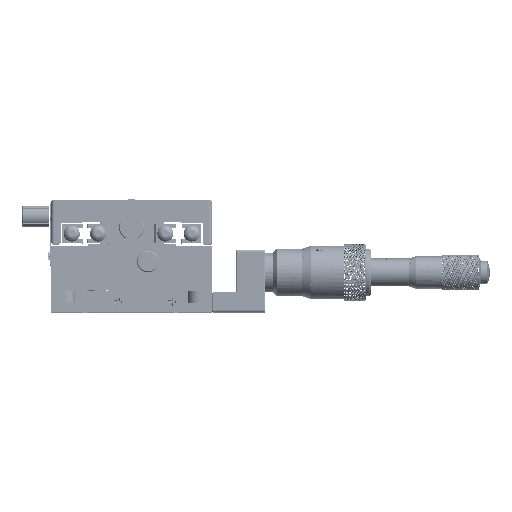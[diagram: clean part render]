
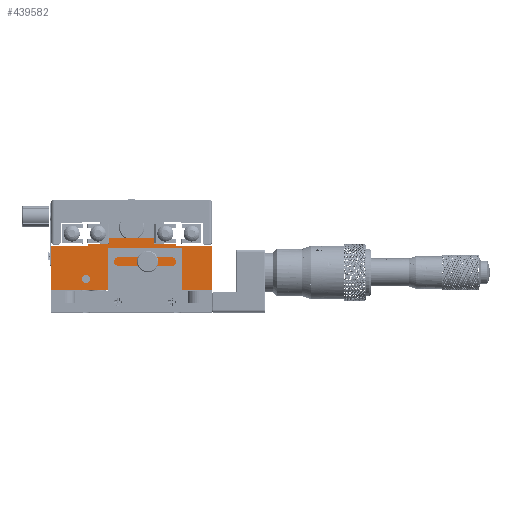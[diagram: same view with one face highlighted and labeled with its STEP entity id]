
A CAD part, top view. The second image highlights one B-rep face of the part: STEP entity #439582.
In plain terms, the highlighted planar face has unit normal (0, 0, 1).
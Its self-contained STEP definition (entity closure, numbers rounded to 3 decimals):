
#51398 = CARTESIAN_POINT ( 'NONE',  ( -20.985, -19.578, 18.46 ) ) ;
#51422 = CARTESIAN_POINT ( 'NONE',  ( -54.985, -19.578, 18.46 ) ) ;
#51429 = CARTESIAN_POINT ( 'NONE',  ( -37.985, -19.578, 18.46 ) ) ;
#51432 = CARTESIAN_POINT ( 'NONE',  ( -31.985, -13.078, 18.46 ) ) ;
#57407 = VERTEX_POINT ( 'NONE', #51398 ) ;
#57483 = VERTEX_POINT ( 'NONE', #51422 ) ;
#57502 = VERTEX_POINT ( 'NONE', #51429 ) ;
#57509 = VERTEX_POINT ( 'NONE', #51432 ) ;
#63073 = EDGE_LOOP ( 'NONE', ( #508020, #508026, #508035, #508042, #508051, #508059, #508067, #508075, #508083, #508092, #508098, #508106 ) ) ;
#63246 = EDGE_LOOP ( 'NONE', ( #508007 ) ) ;
#63271 = EDGE_LOOP ( 'NONE', ( #508012 ) ) ;
#63305 = EDGE_LOOP ( 'NONE', ( #508116 ) ) ;
#63375 = EDGE_LOOP ( 'NONE', ( #508001 ) ) ;
#91609 = FACE_BOUND ( 'NONE', #63375, .T. ) ;
#91616 = FACE_BOUND ( 'NONE', #63271, .T. ) ;
#91671 = FACE_BOUND ( 'NONE', #63305, .T. ) ;
#91683 = FACE_OUTER_BOUND ( 'NONE', #63073, .T. ) ;
#91687 = FACE_BOUND ( 'NONE', #63246, .T. ) ;
#119639 = VERTEX_POINT ( 'NONE', #369046 ) ;
#119666 = VERTEX_POINT ( 'NONE', #369079 ) ;
#119671 = VERTEX_POINT ( 'NONE', #369086 ) ;
#119676 = VERTEX_POINT ( 'NONE', #369093 ) ;
#119681 = VERTEX_POINT ( 'NONE', #369101 ) ;
#119708 = VERTEX_POINT ( 'NONE', #369137 ) ;
#119712 = VERTEX_POINT ( 'NONE', #369144 ) ;
#119739 = VERTEX_POINT ( 'NONE', #369180 ) ;
#119751 = VERTEX_POINT ( 'NONE', #369195 ) ;
#119766 = VERTEX_POINT ( 'NONE', #369213 ) ;
#119790 = VERTEX_POINT ( 'NONE', #369240 ) ;
#119811 = VERTEX_POINT ( 'NONE', #369266 ) ;
#129505 = AXIS2_PLACEMENT_3D ( 'NONE', #160585, #160582, #160609 ) ;
#160582 = DIRECTION ( 'NONE',  ( 0., 0., -1. ) ) ;
#160585 = CARTESIAN_POINT ( 'NONE',  ( -39.485, -13.828, 18.46 ) ) ;
#160596 = PLANE ( 'NONE',  #129505 ) ;
#160609 = DIRECTION ( 'NONE',  ( -1., 0., 0. ) ) ;
#299007 = EDGE_CURVE ( 'NONE', #119811, #119790, #543985, .T. ) ;
#300776 = EDGE_CURVE ( 'NONE', #57407, #57407, #545494, .T. ) ;
#300877 = EDGE_CURVE ( 'NONE', #57483, #57483, #545593, .T. ) ;
#300925 = EDGE_CURVE ( 'NONE', #119681, #119712, #545635, .T. ) ;
#300933 = EDGE_CURVE ( 'NONE', #57502, #57502, #545627, .T. ) ;
#300941 = EDGE_CURVE ( 'NONE', #57509, #57509, #545643, .T. ) ;
#300949 = EDGE_CURVE ( 'NONE', #119790, #119766, #545656, .T. ) ;
#300973 = EDGE_CURVE ( 'NONE', #119811, #119639, #545682, .T. ) ;
#301580 = EDGE_CURVE ( 'NONE', #119766, #119739, #546156, .T. ) ;
#301625 = EDGE_CURVE ( 'NONE', #119739, #119751, #546188, .T. ) ;
#301653 = EDGE_CURVE ( 'NONE', #119751, #119676, #546208, .T. ) ;
#301678 = EDGE_CURVE ( 'NONE', #119671, #119708, #546229, .T. ) ;
#301718 = EDGE_CURVE ( 'NONE', #119676, #119712, #546265, .T. ) ;
#301742 = EDGE_CURVE ( 'NONE', #119708, #119681, #546288, .T. ) ;
#301794 = EDGE_CURVE ( 'NONE', #119666, #119671, #546345, .T. ) ;
#301815 = EDGE_CURVE ( 'NONE', #119639, #119666, #546356, .T. ) ;
#359136 = AXIS2_PLACEMENT_3D ( 'NONE', #644682, #644686, #644690 ) ;
#359436 = AXIS2_PLACEMENT_3D ( 'NONE', #645072, #645074, #645076 ) ;
#359587 = AXIS2_PLACEMENT_3D ( 'NONE', #645193, #645195, #645198 ) ;
#359611 = AXIS2_PLACEMENT_3D ( 'NONE', #645222, #645225, #645227 ) ;
#369046 = CARTESIAN_POINT ( 'NONE',  ( -9.485, -7.078, 18.46 ) ) ;
#369079 = CARTESIAN_POINT ( 'NONE',  ( -22.985, -7.078, 18.46 ) ) ;
#369086 = CARTESIAN_POINT ( 'NONE',  ( -22.985, -6.578, 18.46 ) ) ;
#369093 = CARTESIAN_POINT ( 'NONE',  ( -47.985, -6.578, 18.46 ) ) ;
#369101 = CARTESIAN_POINT ( 'NONE',  ( -30.985, -4.078, 18.46 ) ) ;
#369137 = CARTESIAN_POINT ( 'NONE',  ( -30.985, -6.578, 18.46 ) ) ;
#369144 = CARTESIAN_POINT ( 'NONE',  ( -47.985, -4.078, 18.46 ) ) ;
#369180 = CARTESIAN_POINT ( 'NONE',  ( -55.985, -7.078, 18.46 ) ) ;
#369195 = CARTESIAN_POINT ( 'NONE',  ( -55.985, -6.578, 18.46 ) ) ;
#369213 = CARTESIAN_POINT ( 'NONE',  ( -69.485, -7.078, 18.46 ) ) ;
#369240 = CARTESIAN_POINT ( 'NONE',  ( -69.485, -23.578, 18.46 ) ) ;
#369266 = CARTESIAN_POINT ( 'NONE',  ( -9.485, -23.578, 18.46 ) ) ;
#439582 = ADVANCED_FACE ( 'NONE', ( #91609, #91687, #91616, #91683, #91671 ), #160596, .F. ) ;
#508001 = ORIENTED_EDGE ( 'NONE', *, *, #300941, .F. ) ;
#508007 = ORIENTED_EDGE ( 'NONE', *, *, #300933, .F. ) ;
#508012 = ORIENTED_EDGE ( 'NONE', *, *, #300877, .F. ) ;
#508020 = ORIENTED_EDGE ( 'NONE', *, *, #300949, .F. ) ;
#508026 = ORIENTED_EDGE ( 'NONE', *, *, #299007, .F. ) ;
#508035 = ORIENTED_EDGE ( 'NONE', *, *, #300973, .T. ) ;
#508042 = ORIENTED_EDGE ( 'NONE', *, *, #301815, .T. ) ;
#508051 = ORIENTED_EDGE ( 'NONE', *, *, #301794, .T. ) ;
#508059 = ORIENTED_EDGE ( 'NONE', *, *, #301678, .T. ) ;
#508067 = ORIENTED_EDGE ( 'NONE', *, *, #301742, .T. ) ;
#508075 = ORIENTED_EDGE ( 'NONE', *, *, #300925, .T. ) ;
#508083 = ORIENTED_EDGE ( 'NONE', *, *, #301718, .F. ) ;
#508092 = ORIENTED_EDGE ( 'NONE', *, *, #301653, .F. ) ;
#508098 = ORIENTED_EDGE ( 'NONE', *, *, #301625, .F. ) ;
#508106 = ORIENTED_EDGE ( 'NONE', *, *, #301580, .F. ) ;
#508116 = ORIENTED_EDGE ( 'NONE', *, *, #300776, .F. ) ;
#543985 = LINE ( 'NONE', #626460, #544016 ) ;
#544016 = VECTOR ( 'NONE', #626514, 1000. ) ;
#545494 = CIRCLE ( 'NONE', #359136, 1.5 ) ;
#545593 = CIRCLE ( 'NONE', #359436, 1.5 ) ;
#545627 = CIRCLE ( 'NONE', #359587, 1.5 ) ;
#545635 = LINE ( 'NONE', #645174, #545639 ) ;
#545639 = VECTOR ( 'NONE', #645178, 1000. ) ;
#545643 = CIRCLE ( 'NONE', #359611, 1.5 ) ;
#545656 = LINE ( 'NONE', #645245, #545660 ) ;
#545660 = VECTOR ( 'NONE', #645250, 1000. ) ;
#545682 = LINE ( 'NONE', #645310, #545689 ) ;
#545689 = VECTOR ( 'NONE', #645314, 1000. ) ;
#546156 = LINE ( 'NONE', #662411, #546159 ) ;
#546159 = VECTOR ( 'NONE', #662417, 1000. ) ;
#546188 = LINE ( 'NONE', #662587, #546193 ) ;
#546193 = VECTOR ( 'NONE', #662594, 1000. ) ;
#546208 = LINE ( 'NONE', #662691, #546214 ) ;
#546214 = VECTOR ( 'NONE', #662697, 1000. ) ;
#546229 = LINE ( 'NONE', #662799, #546232 ) ;
#546232 = VECTOR ( 'NONE', #662806, 1000. ) ;
#546265 = LINE ( 'NONE', #662987, #546268 ) ;
#546268 = VECTOR ( 'NONE', #662993, 1000. ) ;
#546288 = LINE ( 'NONE', #663108, #546293 ) ;
#546293 = VECTOR ( 'NONE', #663117, 1000. ) ;
#546345 = LINE ( 'NONE', #663475, #546350 ) ;
#546350 = VECTOR ( 'NONE', #663482, 1000. ) ;
#546356 = LINE ( 'NONE', #663567, #546374 ) ;
#546374 = VECTOR ( 'NONE', #663592, 1000. ) ;
#626460 = CARTESIAN_POINT ( 'NONE',  ( -39.485, -23.578, 18.46 ) ) ;
#626514 = DIRECTION ( 'NONE',  ( -1., 0., 0. ) ) ;
#644682 = CARTESIAN_POINT ( 'NONE',  ( -22.485, -19.578, 18.46 ) ) ;
#644686 = DIRECTION ( 'NONE',  ( 0., 0., 1. ) ) ;
#644690 = DIRECTION ( 'NONE',  ( 1., 0., 0. ) ) ;
#645072 = CARTESIAN_POINT ( 'NONE',  ( -56.485, -19.578, 18.46 ) ) ;
#645074 = DIRECTION ( 'NONE',  ( 0., 0., 1. ) ) ;
#645076 = DIRECTION ( 'NONE',  ( 1., 0., 0. ) ) ;
#645174 = CARTESIAN_POINT ( 'NONE',  ( -39.485, -4.078, 18.46 ) ) ;
#645178 = DIRECTION ( 'NONE',  ( -1., 0., 0. ) ) ;
#645193 = CARTESIAN_POINT ( 'NONE',  ( -39.485, -19.578, 18.46 ) ) ;
#645195 = DIRECTION ( 'NONE',  ( 0., 0., 1. ) ) ;
#645198 = DIRECTION ( 'NONE',  ( 1., 0., 0. ) ) ;
#645222 = CARTESIAN_POINT ( 'NONE',  ( -33.485, -13.078, 18.46 ) ) ;
#645225 = DIRECTION ( 'NONE',  ( 0., 0., 1. ) ) ;
#645227 = DIRECTION ( 'NONE',  ( 1., 0., 0. ) ) ;
#645245 = CARTESIAN_POINT ( 'NONE',  ( -69.485, -13.828, 18.46 ) ) ;
#645250 = DIRECTION ( 'NONE',  ( 0., 1., 0. ) ) ;
#645310 = CARTESIAN_POINT ( 'NONE',  ( -9.485, -13.828, 18.46 ) ) ;
#645314 = DIRECTION ( 'NONE',  ( 0., 1., 0. ) ) ;
#662411 = CARTESIAN_POINT ( 'NONE',  ( -39.485, -7.078, 18.46 ) ) ;
#662417 = DIRECTION ( 'NONE',  ( 1., 0., 0. ) ) ;
#662587 = CARTESIAN_POINT ( 'NONE',  ( -55.985, -13.828, 18.46 ) ) ;
#662594 = DIRECTION ( 'NONE',  ( 0., 1., 0. ) ) ;
#662691 = CARTESIAN_POINT ( 'NONE',  ( -39.485, -6.578, 18.46 ) ) ;
#662697 = DIRECTION ( 'NONE',  ( 1., 0., 0. ) ) ;
#662799 = CARTESIAN_POINT ( 'NONE',  ( -39.485, -6.578, 18.46 ) ) ;
#662806 = DIRECTION ( 'NONE',  ( -1., 0., 0. ) ) ;
#662987 = CARTESIAN_POINT ( 'NONE',  ( -47.985, -13.828, 18.46 ) ) ;
#662993 = DIRECTION ( 'NONE',  ( 0., 1., 0. ) ) ;
#663108 = CARTESIAN_POINT ( 'NONE',  ( -30.985, -13.828, 18.46 ) ) ;
#663117 = DIRECTION ( 'NONE',  ( 0., 1., 0. ) ) ;
#663475 = CARTESIAN_POINT ( 'NONE',  ( -22.985, -13.828, 18.46 ) ) ;
#663482 = DIRECTION ( 'NONE',  ( 0., 1., 0. ) ) ;
#663567 = CARTESIAN_POINT ( 'NONE',  ( -39.485, -7.078, 18.46 ) ) ;
#663592 = DIRECTION ( 'NONE',  ( -1., 0., 0. ) ) ;
